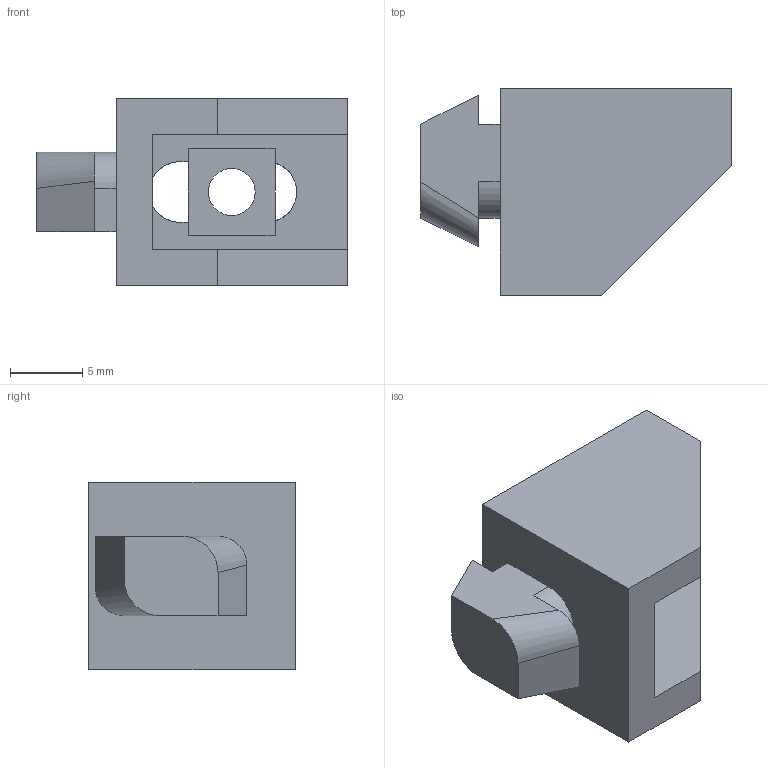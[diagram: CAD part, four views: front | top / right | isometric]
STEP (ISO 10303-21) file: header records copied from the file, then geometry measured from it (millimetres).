
FILE_DESCRIPTION((''),'2;1');
FILE_NAME('E:\catalogue and flyer\Profile catalogue 2015\Accessories ACC info\Accessories ACC step file 31Mar16\ACC-MB94003-6.stp','2016-04-07T15:09:54',('h029'),(''),'Autodesk Inventor 11','Autodesk Inventor 11','');
FILE_SCHEMA(('AUTOMOTIVE_DESIGN { 1 0 10303 214 1 1 1 1 }'));
Length unit declared in the file: millimetre
Products named in the file (1): ACC-MB94003-6
Bounding box: 21.5 x 14.3 x 13 mm (x, y, z)
Volume: 1683.2 mm3; surface area: 1628.3 mm2
Topology: 1 solids, 1 shells, 37 faces, 106 edges, 69 vertices
Faces by surface type: plane 30, cylinder 4, bspline 3
Entity records: 1306 total; most frequent: CARTESIAN_POINT 311, ORIENTED_EDGE 208, DIRECTION 190, EDGE_CURVE 104, VECTOR 84, LINE 84, VERTEX_POINT 68, AXIS2_PLACEMENT_3D 53
